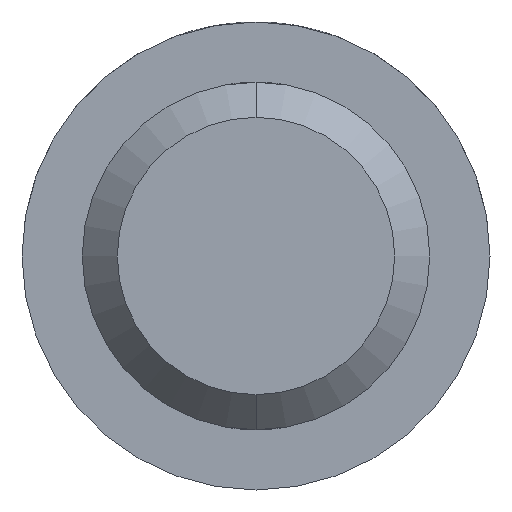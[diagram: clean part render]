
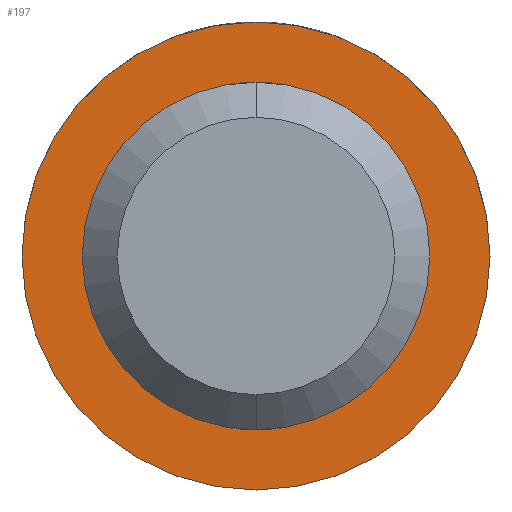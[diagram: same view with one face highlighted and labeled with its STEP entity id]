
A CAD part, front view. The second image highlights one B-rep face of the part: STEP entity #197.
In plain terms, the highlighted planar face has unit normal (0, -1, 0).
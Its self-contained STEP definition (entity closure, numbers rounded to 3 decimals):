
#22 = ORIENTED_EDGE ( 'NONE', *, *, #468, .F. ) ;
#44 = AXIS2_PLACEMENT_3D ( 'NONE', #678, #488, #791 ) ;
#52 = CARTESIAN_POINT ( 'NONE',  ( 0., 30., 0. ) ) ;
#63 = FACE_BOUND ( 'NONE', #149, .T. ) ;
#71 = DIRECTION ( 'NONE',  ( 0., -1., 0. ) ) ;
#72 = CIRCLE ( 'NONE', #314, 14.85 ) ;
#112 = DIRECTION ( 'NONE',  ( 0., 0., -1. ) ) ;
#149 = EDGE_LOOP ( 'NONE', ( #22, #494 ) ) ;
#169 = VERTEX_POINT ( 'NONE', #298 ) ;
#192 = EDGE_CURVE ( 'NONE', #585, #169, #373, .T. ) ;
#197 = ADVANCED_FACE ( 'NONE', ( #63, #545 ), #354, .T. ) ;
#239 = AXIS2_PLACEMENT_3D ( 'NONE', #701, #245, #318 ) ;
#245 = DIRECTION ( 'NONE',  ( 0., -1., 0. ) ) ;
#280 = EDGE_CURVE ( 'NONE', #614, #513, #766, .T. ) ;
#298 = CARTESIAN_POINT ( 'NONE',  ( 0., 30., 20. ) ) ;
#299 = AXIS2_PLACEMENT_3D ( 'NONE', #491, #624, #429 ) ;
#307 = CARTESIAN_POINT ( 'NONE',  ( 0., 30., 0. ) ) ;
#314 = AXIS2_PLACEMENT_3D ( 'NONE', #307, #71, #752 ) ;
#318 = DIRECTION ( 'NONE',  ( 0., 0., -1. ) ) ;
#354 = PLANE ( 'NONE',  #616 ) ;
#371 = EDGE_CURVE ( 'NONE', #169, #585, #622, .T. ) ;
#373 = CIRCLE ( 'NONE', #44, 20. ) ;
#424 = DIRECTION ( 'NONE',  ( 0., -1., 0. ) ) ;
#429 = DIRECTION ( 'NONE',  ( 0., 0., -1. ) ) ;
#455 = CARTESIAN_POINT ( 'NONE',  ( 0., 30., 14.85 ) ) ;
#468 = EDGE_CURVE ( 'NONE', #513, #614, #72, .T. ) ;
#488 = DIRECTION ( 'NONE',  ( 0., -1., 0. ) ) ;
#491 = CARTESIAN_POINT ( 'NONE',  ( 0., 30., 0. ) ) ;
#494 = ORIENTED_EDGE ( 'NONE', *, *, #280, .F. ) ;
#513 = VERTEX_POINT ( 'NONE', #572 ) ;
#525 = EDGE_LOOP ( 'NONE', ( #633, #631 ) ) ;
#545 = FACE_OUTER_BOUND ( 'NONE', #525, .T. ) ;
#572 = CARTESIAN_POINT ( 'NONE',  ( 0., 30., -14.85 ) ) ;
#585 = VERTEX_POINT ( 'NONE', #656 ) ;
#614 = VERTEX_POINT ( 'NONE', #455 ) ;
#616 = AXIS2_PLACEMENT_3D ( 'NONE', #52, #424, #112 ) ;
#622 = CIRCLE ( 'NONE', #239, 20. ) ;
#624 = DIRECTION ( 'NONE',  ( 0., -1., 0. ) ) ;
#631 = ORIENTED_EDGE ( 'NONE', *, *, #371, .T. ) ;
#633 = ORIENTED_EDGE ( 'NONE', *, *, #192, .T. ) ;
#656 = CARTESIAN_POINT ( 'NONE',  ( 0., 30., -20. ) ) ;
#678 = CARTESIAN_POINT ( 'NONE',  ( 0., 30., 0. ) ) ;
#701 = CARTESIAN_POINT ( 'NONE',  ( 0., 30., 0. ) ) ;
#752 = DIRECTION ( 'NONE',  ( 0., 0., -1. ) ) ;
#766 = CIRCLE ( 'NONE', #299, 14.85 ) ;
#791 = DIRECTION ( 'NONE',  ( 0., 0., -1. ) ) ;
